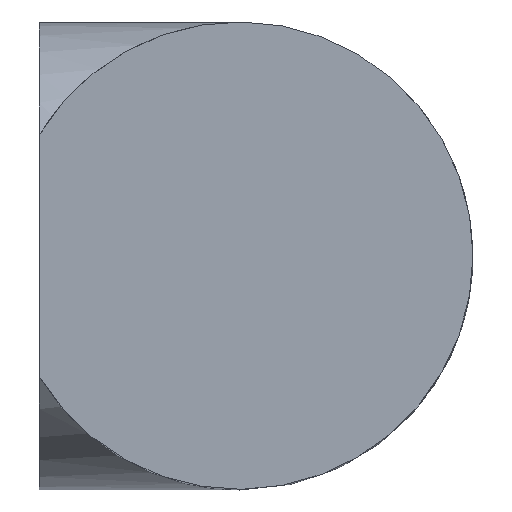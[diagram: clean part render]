
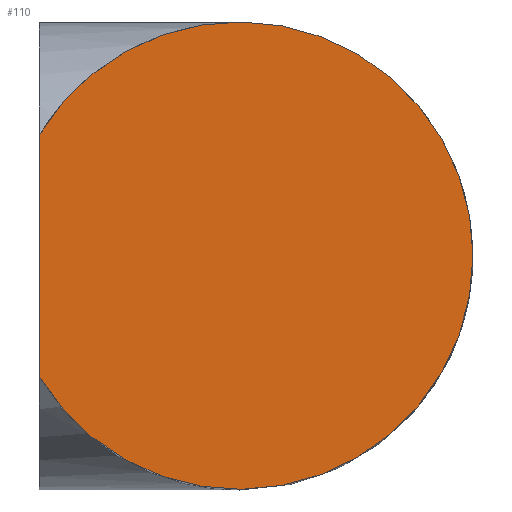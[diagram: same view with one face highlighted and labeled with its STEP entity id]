
A CAD part, top view. The second image highlights one B-rep face of the part: STEP entity #110.
In plain terms, the highlighted planar face has unit normal (0, 0, 1).
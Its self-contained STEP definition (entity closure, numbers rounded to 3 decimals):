
#17=PLANE('',#137);
#24=LINE('',#200,#31);
#31=VECTOR('',#166,10.);
#37=FACE_OUTER_BOUND('',#43,.T.);
#43=EDGE_LOOP('',(#98,#99));
#47=CIRCLE('',#133,2.1);
#58=VERTEX_POINT('',#189);
#59=VERTEX_POINT('',#191);
#69=EDGE_CURVE('',#59,#58,#47,.T.);
#74=EDGE_CURVE('',#58,#59,#24,.T.);
#98=ORIENTED_EDGE('',*,*,#74,.T.);
#99=ORIENTED_EDGE('',*,*,#69,.T.);
#110=ADVANCED_FACE('',(#37),#17,.T.);
#133=AXIS2_PLACEMENT_3D('',#192,#157,#158);
#137=AXIS2_PLACEMENT_3D('',#203,#170,#171);
#157=DIRECTION('center_axis',(0.,0.,1.));
#158=DIRECTION('ref_axis',(1.,0.,0.));
#166=DIRECTION('',(0.,-1.,0.));
#170=DIRECTION('center_axis',(0.,0.,1.));
#171=DIRECTION('ref_axis',(1.,0.,0.));
#189=CARTESIAN_POINT('',(-1.799,1.083,-3.55));
#191=CARTESIAN_POINT('',(-1.799,-1.083,-3.55));
#192=CARTESIAN_POINT('Origin',(0.,0.,
-3.55));
#200=CARTESIAN_POINT('',(-1.799,0.,-3.55));
#203=CARTESIAN_POINT('Origin',(0.,0.,
-3.55));
